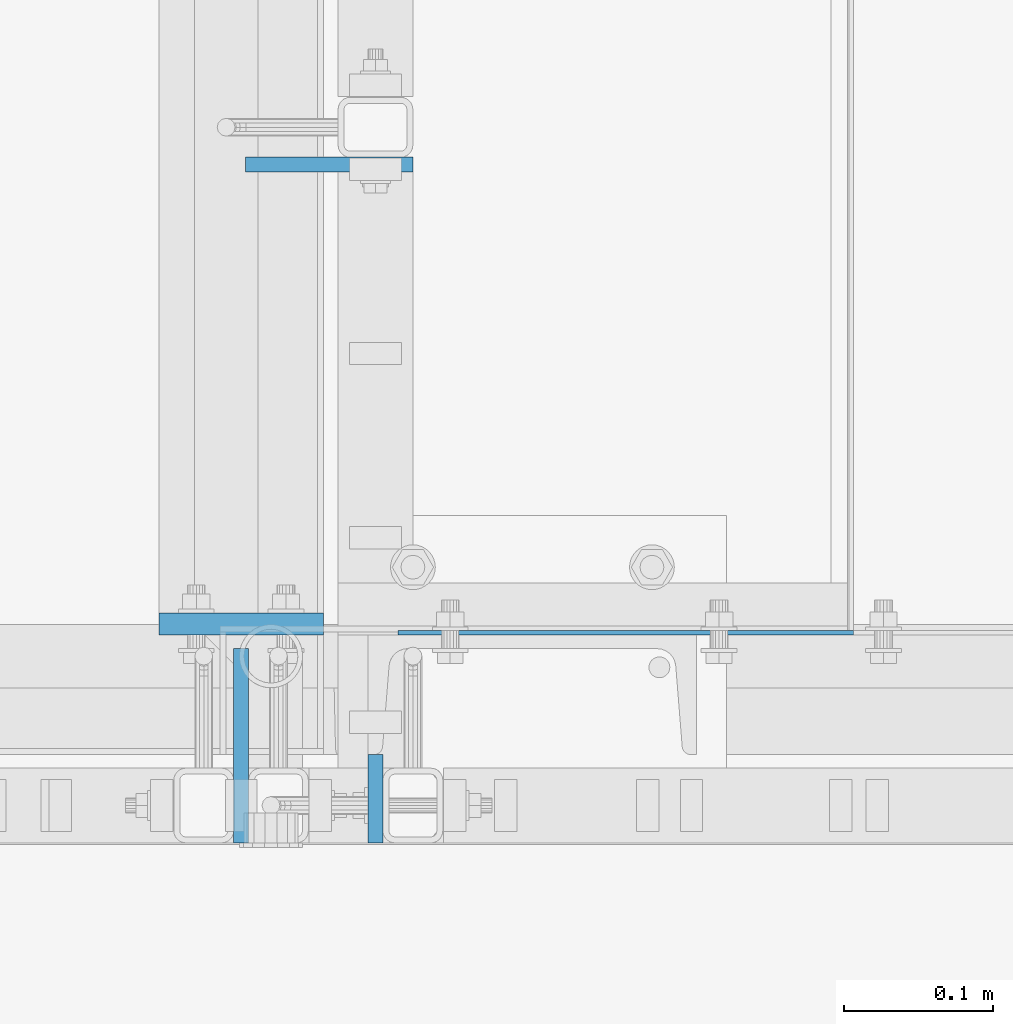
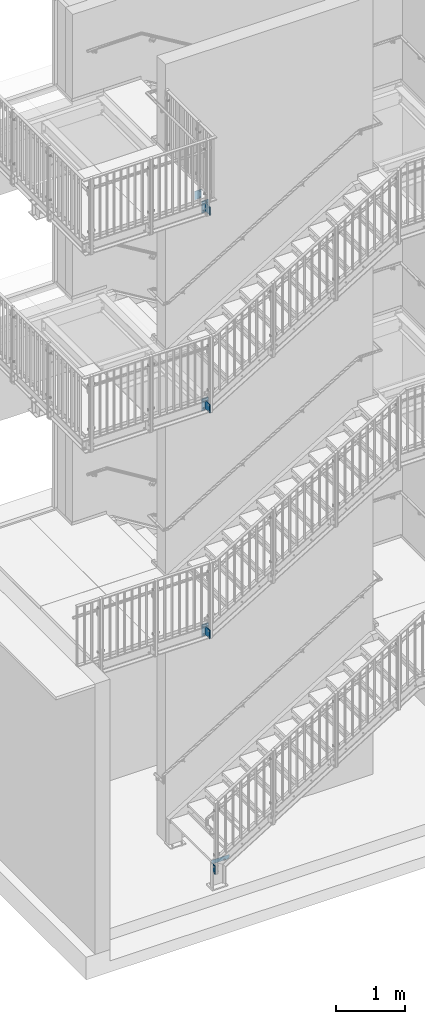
# One storey, part 52 of 410: 9 plates, 36 openings.
"""IFC2X3 building model written with IfcOpenShell, lengths in millimetres."""

from ifc_helpers import new_model, entity, si_unit, converted_unit, point, frame, frame_2d, origin, origin_with_axes, origin_2d_with_axis, place, context, project, spatial, polyline, circle_curve, line_curve, trimmed, segment, composite_curve, circle, outline, extrude, material, layer, layer_set, element, save


model = new_model("IFC2X3")

# Units and contexts
model_context = context("Model", 3, precision=1e-09, world=origin_with_axes())
ifc_project = project(units=[si_unit("LENGTHUNIT", "METRE", prefix="MILLI"), si_unit("AREAUNIT", "SQUARE_METRE"), si_unit("VOLUMEUNIT", "CUBIC_METRE"), converted_unit("PLANEANGLEUNIT", "DEGREE", entity("IfcPlaneAngleMeasure", 0.01745329), si_unit("PLANEANGLEUNIT", "RADIAN"), dimensions=[0, 0, 0, 0, 0, 0, 0])], contexts=[model_context])

# Site, building, storey
site_placement = place(None, origin_with_axes())
site = spatial("IfcSite", under=ifc_project, at=site_placement, Name="mKR Teilneubau & Sanierung BA1 - Ostfildern", CompositionType="ELEMENT")
building_placement = place(site_placement, origin_with_axes())
building = spatial("IfcBuilding", under=site, at=building_placement, Name="Struktur 1", CompositionType="ELEMENT")
storey_placement = place(building_placement, origin_with_axes())
storey = spatial("IfcBuildingStorey", under=building, at=storey_placement, Name="Default Storey", CompositionType="ELEMENT", Elevation=0.0)

# Plate, openings
ifc_material = material(Name="S235JR")
ifc_layer_1 = layer(ifc_material, 3.0)
ifc_layer_set_1 = layer_set([ifc_layer_1], Name="S235JR")
plate_1_placement = place(None, frame((-1705.0, 15522.999999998, -4291.2), z_axis=(0.0, -1.0, 0.0), x_axis=(0.0, 0.0, -1.0)))
plate_1 = element("IfcPlate", 1, at=plate_1_placement, inside=storey, material=ifc_layer_set_1, Name="Grate_Step#3", ObjectType="Grate_Step#3", context=model_context, shape_type="SweptSolid", body=[
    extrude(outline(polyline([(0.0, 0.0), (70.0, 0.0), (70.0, 275.0), (40.0, 305.0), (0.0, 305.0), (0.0, 0.0)])), origin_with_axes(), (0.0, 0.0, 1.0), 3.0),
])
opening_1_placement = place(plate_1_placement, frame((55.0, 215.0, -0.5), z_axis=(0.0, 0.0, 1.0), x_axis=(0.0, 1.0, 0.0)))
element("IfcOpeningElement", 2, at=opening_1_placement, cuts=plate_1, ObjectType="Opening", context=model_context, shape_type="SweptSolid", body=[
    extrude(outline(composite_curve([segment(trimmed(line_curve((-9.5, -7.001), (1.0, 0.0), 19.0), [point((-9.5, -7.001))], [point((9.5, -7.001))], True, "CARTESIAN"), True, "CONTINUOUS"), segment(trimmed(circle_curve(frame_2d((9.5, 0.0), x_axis=(1.0, 0.0)), 7.001), [point((9.5, -7.001))], [point((9.5, 7.001))], True, "CARTESIAN"), True, "CONTINUOUS"), segment(trimmed(line_curve((9.5, 7.001), (-1.0, 0.0), 19.0), [point((9.5, 7.001))], [point((-9.5, 7.001))], True, "CARTESIAN"), True, "CONTINUOUS"), segment(trimmed(circle_curve(frame_2d((-9.5, 0.0), x_axis=(1.0, 0.0)), 7.001), [point((-9.5, 7.001))], [point((-9.5, -7.001))], True, "CARTESIAN"), True, "CONTINUOUS")], self_intersect=False)), origin(), (0.0, 0.0, 1.0), 4.0),
])
opening_2_placement = place(plate_1_placement, frame((55.0, 35.0, -0.5), z_axis=(0.0, 0.0, 1.0), x_axis=(0.0, 1.0, 0.0)))
element("IfcOpeningElement", 3, at=opening_2_placement, cuts=plate_1, ObjectType="Opening", context=model_context, shape_type="SweptSolid", body=[
    extrude(circle(Radius=7.001, at=origin_2d_with_axis()), origin(), (0.0, 0.0, 1.0), 4.0),
])

ifc_layer_2 = layer(ifc_material, 15.0)
ifc_layer_set_2 = layer_set([ifc_layer_2], Name="S235JR")
plate_2_placement = place(None, frame((-1809.9985317, 15534.999999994, 3830.0), z_axis=(0.0, -1.0, 0.0), x_axis=(1.0, 0.0, 0.0)))
plate_2 = element("IfcPlate", 4, at=plate_2_placement, inside=storey, material=ifc_layer_set_2, Name="-", ObjectType="-", context=model_context, shape_type="SweptSolid", body=[
    extrude(outline(polyline([(-55.0, -105.0), (55.0, -105.0), (55.0, 105.0), (-55.0, 105.0), (-55.0, -105.0)])), origin_with_axes(), (0.0, 0.0, 1.0), 15.0),
])
opening_3_placement = place(plate_2_placement, frame((2.9e-08, 1.5e-08, -0.5), z_axis=(0.0, 0.0, 1.0), x_axis=(1.0, 0.0, 0.0)))
element("IfcOpeningElement", 5, at=opening_3_placement, cuts=plate_2, ObjectType="Opening", context=model_context, shape_type="SweptSolid", body=[
    extrude(circle(Radius=7.001, at=frame_2d((30.0, 60.0), x_axis=(1.0, 0.0))), origin(), (0.0, 0.0, 1.0), 16.0),
])
opening_4_placement = place(plate_2_placement, frame((2.9e-08, 1.5e-08, -0.5), z_axis=(0.0, 0.0, 1.0), x_axis=(1.0, 0.0, 0.0)))
element("IfcOpeningElement", 6, at=opening_4_placement, cuts=plate_2, ObjectType="Opening", context=model_context, shape_type="SweptSolid", body=[
    extrude(circle(Radius=7.001, at=frame_2d((-30.0, 60.0), x_axis=(1.0, 0.0))), origin(), (0.0, 0.0, 1.0), 16.0),
])
opening_5_placement = place(plate_2_placement, frame((2.9e-08, 1.5e-08, -0.5), z_axis=(0.0, 0.0, 1.0), x_axis=(1.0, 0.0, 0.0)))
element("IfcOpeningElement", 7, at=opening_5_placement, cuts=plate_2, ObjectType="Opening", context=model_context, shape_type="SweptSolid", body=[
    extrude(circle(Radius=7.001, at=frame_2d((30.0, -60.0), x_axis=(1.0, 0.0))), origin(), (0.0, 0.0, 1.0), 16.0),
])
opening_6_placement = place(plate_2_placement, frame((2.9e-08, 1.5e-08, -0.5), z_axis=(0.0, 0.0, 1.0), x_axis=(1.0, 0.0, 0.0)))
element("IfcOpeningElement", 8, at=opening_6_placement, cuts=plate_2, ObjectType="Opening", context=model_context, shape_type="SweptSolid", body=[
    extrude(circle(Radius=7.001, at=frame_2d((-30.0, -60.0), x_axis=(1.0, 0.0))), origin(), (0.0, 0.0, 1.0), 16.0),
])
opening_7_placement = place(plate_2_placement, frame((14.95, 88.8, 15.5), z_axis=(0.0, 0.0, -1.0), x_axis=(0.0, 1.0, 0.0)))
element("IfcOpeningElement", 9, at=opening_7_placement, cuts=plate_2, ObjectType="Opening", context=model_context, shape_type="SweptSolid", body=[
    extrude(circle(Radius=6.001, at=origin_2d_with_axis()), origin(), (0.0, 0.0, 1.0), 16.0),
])
opening_8_placement = place(plate_2_placement, frame((14.95, -88.8, 15.5), z_axis=(0.0, 0.0, -1.0), x_axis=(0.0, 1.0, 0.0)))
element("IfcOpeningElement", 10, at=opening_8_placement, cuts=plate_2, ObjectType="Opening", context=model_context, shape_type="SweptSolid", body=[
    extrude(circle(Radius=6.001, at=origin_2d_with_axis()), origin(), (0.0, 0.0, 1.0), 16.0),
])
opening_9_placement = place(plate_2_placement, frame((-14.95, -88.8, 15.5), z_axis=(0.0, 0.0, -1.0), x_axis=(0.0, 1.0, 0.0)))
element("IfcOpeningElement", 11, at=opening_9_placement, cuts=plate_2, ObjectType="Opening", context=model_context, shape_type="SweptSolid", body=[
    extrude(circle(Radius=6.001, at=origin_2d_with_axis()), origin(), (0.0, 0.0, 1.0), 16.0),
])
opening_10_placement = place(plate_2_placement, frame((-14.95, 88.8, 15.5), z_axis=(0.0, 0.0, -1.0), x_axis=(0.0, 1.0, 0.0)))
element("IfcOpeningElement", 12, at=opening_10_placement, cuts=plate_2, ObjectType="Opening", context=model_context, shape_type="SweptSolid", body=[
    extrude(circle(Radius=6.001, at=origin_2d_with_axis()), origin(), (0.0, 0.0, 1.0), 16.0),
])

plate_3_placement = place(None, frame((-1809.9985317, 15534.999999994, 7330.0), z_axis=(0.0, -1.0, 0.0), x_axis=(1.0, 0.0, 0.0)))
plate_3 = element("IfcPlate", 13, at=plate_3_placement, inside=storey, material=ifc_layer_set_2, Name="-", ObjectType="-", context=model_context, shape_type="SweptSolid", body=[
    extrude(outline(polyline([(-55.0, -105.0), (55.0, -105.0), (55.0, 105.0), (-55.0, 105.0), (-55.0, -105.0)])), origin_with_axes(), (0.0, 0.0, 1.0), 15.0),
])
opening_11_placement = place(plate_3_placement, frame((2.9e-08, 1.5e-08, -0.5), z_axis=(0.0, 0.0, 1.0), x_axis=(1.0, 0.0, 0.0)))
element("IfcOpeningElement", 14, at=opening_11_placement, cuts=plate_3, ObjectType="Opening", context=model_context, shape_type="SweptSolid", body=[
    extrude(circle(Radius=7.001, at=frame_2d((30.0, 60.0), x_axis=(1.0, 0.0))), origin(), (0.0, 0.0, 1.0), 16.0),
])
opening_12_placement = place(plate_3_placement, frame((2.9e-08, 1.5e-08, -0.5), z_axis=(0.0, 0.0, 1.0), x_axis=(1.0, 0.0, 0.0)))
element("IfcOpeningElement", 15, at=opening_12_placement, cuts=plate_3, ObjectType="Opening", context=model_context, shape_type="SweptSolid", body=[
    extrude(circle(Radius=7.001, at=frame_2d((-30.0, 60.0), x_axis=(1.0, 0.0))), origin(), (0.0, 0.0, 1.0), 16.0),
])
opening_13_placement = place(plate_3_placement, frame((2.9e-08, 1.5e-08, -0.5), z_axis=(0.0, 0.0, 1.0), x_axis=(1.0, 0.0, 0.0)))
element("IfcOpeningElement", 16, at=opening_13_placement, cuts=plate_3, ObjectType="Opening", context=model_context, shape_type="SweptSolid", body=[
    extrude(circle(Radius=7.001, at=frame_2d((30.0, -60.0), x_axis=(1.0, 0.0))), origin(), (0.0, 0.0, 1.0), 16.0),
])
opening_14_placement = place(plate_3_placement, frame((2.9e-08, 1.5e-08, -0.5), z_axis=(0.0, 0.0, 1.0), x_axis=(1.0, 0.0, 0.0)))
element("IfcOpeningElement", 17, at=opening_14_placement, cuts=plate_3, ObjectType="Opening", context=model_context, shape_type="SweptSolid", body=[
    extrude(circle(Radius=7.001, at=frame_2d((-30.0, -60.0), x_axis=(1.0, 0.0))), origin(), (0.0, 0.0, 1.0), 16.0),
])
opening_15_placement = place(plate_3_placement, frame((14.95, 88.8, 15.5), z_axis=(0.0, 0.0, -1.0), x_axis=(0.0, 1.0, 0.0)))
element("IfcOpeningElement", 18, at=opening_15_placement, cuts=plate_3, ObjectType="Opening", context=model_context, shape_type="SweptSolid", body=[
    extrude(circle(Radius=6.001, at=origin_2d_with_axis()), origin(), (0.0, 0.0, 1.0), 16.0),
])
opening_16_placement = place(plate_3_placement, frame((14.95, -88.8, 15.5), z_axis=(0.0, 0.0, -1.0), x_axis=(0.0, 1.0, 0.0)))
element("IfcOpeningElement", 19, at=opening_16_placement, cuts=plate_3, ObjectType="Opening", context=model_context, shape_type="SweptSolid", body=[
    extrude(circle(Radius=6.001, at=origin_2d_with_axis()), origin(), (0.0, 0.0, 1.0), 16.0),
])
opening_17_placement = place(plate_3_placement, frame((-14.95, -88.8, 15.5), z_axis=(0.0, 0.0, -1.0), x_axis=(0.0, 1.0, 0.0)))
element("IfcOpeningElement", 20, at=opening_17_placement, cuts=plate_3, ObjectType="Opening", context=model_context, shape_type="SweptSolid", body=[
    extrude(circle(Radius=6.001, at=origin_2d_with_axis()), origin(), (0.0, 0.0, 1.0), 16.0),
])
opening_18_placement = place(plate_3_placement, frame((-14.95, 88.8, 15.5), z_axis=(0.0, 0.0, -1.0), x_axis=(0.0, 1.0, 0.0)))
element("IfcOpeningElement", 21, at=opening_18_placement, cuts=plate_3, ObjectType="Opening", context=model_context, shape_type="SweptSolid", body=[
    extrude(circle(Radius=6.001, at=origin_2d_with_axis()), origin(), (0.0, 0.0, 1.0), 16.0),
])

plate_4_placement = place(None, frame((-1809.9985317, 15534.999999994, -170.0), z_axis=(0.0, -1.0, 0.0), x_axis=(1.0, 0.0, 0.0)))
plate_4 = element("IfcPlate", 22, at=plate_4_placement, inside=storey, material=ifc_layer_set_2, Name="-", ObjectType="-", context=model_context, shape_type="SweptSolid", body=[
    extrude(outline(polyline([(-55.0, -105.0), (55.0, -105.0), (55.0, 105.0), (-55.0, 105.0), (-55.0, -105.0)])), origin_with_axes(), (0.0, 0.0, 1.0), 15.0),
])
opening_19_placement = place(plate_4_placement, frame((2.9e-08, 1.5e-08, -0.5), z_axis=(0.0, 0.0, 1.0), x_axis=(1.0, 0.0, 0.0)))
element("IfcOpeningElement", 23, at=opening_19_placement, cuts=plate_4, ObjectType="Opening", context=model_context, shape_type="SweptSolid", body=[
    extrude(circle(Radius=7.001, at=frame_2d((30.0, 60.0), x_axis=(1.0, 0.0))), origin(), (0.0, 0.0, 1.0), 16.0),
])
opening_20_placement = place(plate_4_placement, frame((2.9e-08, 1.5e-08, -0.5), z_axis=(0.0, 0.0, 1.0), x_axis=(1.0, 0.0, 0.0)))
element("IfcOpeningElement", 24, at=opening_20_placement, cuts=plate_4, ObjectType="Opening", context=model_context, shape_type="SweptSolid", body=[
    extrude(circle(Radius=7.001, at=frame_2d((-30.0, 60.0), x_axis=(1.0, 0.0))), origin(), (0.0, 0.0, 1.0), 16.0),
])
opening_21_placement = place(plate_4_placement, frame((2.9e-08, 1.5e-08, -0.5), z_axis=(0.0, 0.0, 1.0), x_axis=(1.0, 0.0, 0.0)))
element("IfcOpeningElement", 25, at=opening_21_placement, cuts=plate_4, ObjectType="Opening", context=model_context, shape_type="SweptSolid", body=[
    extrude(circle(Radius=7.001, at=frame_2d((30.0, -60.0), x_axis=(1.0, 0.0))), origin(), (0.0, 0.0, 1.0), 16.0),
])
opening_22_placement = place(plate_4_placement, frame((2.9e-08, 1.5e-08, -0.5), z_axis=(0.0, 0.0, 1.0), x_axis=(1.0, 0.0, 0.0)))
element("IfcOpeningElement", 26, at=opening_22_placement, cuts=plate_4, ObjectType="Opening", context=model_context, shape_type="SweptSolid", body=[
    extrude(circle(Radius=7.001, at=frame_2d((-30.0, -60.0), x_axis=(1.0, 0.0))), origin(), (0.0, 0.0, 1.0), 16.0),
])
opening_23_placement = place(plate_4_placement, frame((14.95, 88.8, 15.5), z_axis=(0.0, 0.0, -1.0), x_axis=(0.0, 1.0, 0.0)))
element("IfcOpeningElement", 27, at=opening_23_placement, cuts=plate_4, ObjectType="Opening", context=model_context, shape_type="SweptSolid", body=[
    extrude(circle(Radius=6.001, at=origin_2d_with_axis()), origin(), (0.0, 0.0, 1.0), 16.0),
])
opening_24_placement = place(plate_4_placement, frame((14.95, -88.8, 15.5), z_axis=(0.0, 0.0, -1.0), x_axis=(0.0, 1.0, 0.0)))
element("IfcOpeningElement", 28, at=opening_24_placement, cuts=plate_4, ObjectType="Opening", context=model_context, shape_type="SweptSolid", body=[
    extrude(circle(Radius=6.001, at=origin_2d_with_axis()), origin(), (0.0, 0.0, 1.0), 16.0),
])
opening_25_placement = place(plate_4_placement, frame((-14.95, -88.8, 15.5), z_axis=(0.0, 0.0, -1.0), x_axis=(0.0, 1.0, 0.0)))
element("IfcOpeningElement", 29, at=opening_25_placement, cuts=plate_4, ObjectType="Opening", context=model_context, shape_type="SweptSolid", body=[
    extrude(circle(Radius=6.001, at=origin_2d_with_axis()), origin(), (0.0, 0.0, 1.0), 16.0),
])
opening_26_placement = place(plate_4_placement, frame((-14.95, 88.8, 15.5), z_axis=(0.0, 0.0, -1.0), x_axis=(0.0, 1.0, 0.0)))
element("IfcOpeningElement", 30, at=opening_26_placement, cuts=plate_4, ObjectType="Opening", context=model_context, shape_type="SweptSolid", body=[
    extrude(circle(Radius=6.001, at=origin_2d_with_axis()), origin(), (0.0, 0.0, 1.0), 16.0),
])

ifc_layer_3 = layer(ifc_material, 10.0)
ifc_layer_set_3 = layer_set([ifc_layer_3], Name="S235JR")
plate_5_placement = place(None, frame((-1804.99853167, 15445.999999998, 3830.0), z_axis=(-1.0, 0.0, 0.0), x_axis=(0.0, -1.0, 0.0)))
plate_5 = element("IfcPlate", 31, at=plate_5_placement, inside=storey, material=ifc_layer_set_3, Name="-", ObjectType="-", context=model_context, shape_type="SweptSolid", body=[
    extrude(outline(polyline([(-65.0, -75.0), (65.0, -75.0), (65.0, 75.0), (-65.0, 75.0), (-65.0, -75.0)])), origin_with_axes(), (0.0, 0.0, 1.0), 10.0),
])
opening_27_placement = place(plate_5_placement, frame((40.0, 0.0, -0.5), z_axis=(0.0, 0.0, 1.0), x_axis=(1.0, 0.0, 0.0)))
element("IfcOpeningElement", 32, at=opening_27_placement, cuts=plate_5, ObjectType="Opening", context=model_context, shape_type="SweptSolid", body=[
    extrude(circle(Radius=7.001, at=frame_2d((0.0, 50.0), x_axis=(1.0, 0.0))), origin(), (0.0, 0.0, 1.0), 11.0),
])
opening_28_placement = place(plate_5_placement, frame((40.0, 0.0, -0.5), z_axis=(0.0, 0.0, 1.0), x_axis=(1.0, 0.0, 0.0)))
element("IfcOpeningElement", 33, at=opening_28_placement, cuts=plate_5, ObjectType="Opening", context=model_context, shape_type="SweptSolid", body=[
    extrude(circle(Radius=7.001, at=frame_2d((0.0, -50.0), x_axis=(1.0, 0.0))), origin(), (0.0, 0.0, 1.0), 11.0),
])

plate_6_placement = place(None, frame((-1804.99853167, 15445.999999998, -170.0), z_axis=(-1.0, 0.0, 0.0), x_axis=(0.0, -1.0, 0.0)))
plate_6 = element("IfcPlate", 34, at=plate_6_placement, inside=storey, material=ifc_layer_set_3, Name="-", ObjectType="-", context=model_context, shape_type="SweptSolid", body=[
    extrude(outline(polyline([(-65.0, -75.0), (65.0, -75.0), (65.0, 75.0), (-65.0, 75.0), (-65.0, -75.0)])), origin_with_axes(), (0.0, 0.0, 1.0), 10.0),
])
opening_29_placement = place(plate_6_placement, frame((40.0, 0.0, -0.5), z_axis=(0.0, 0.0, 1.0), x_axis=(1.0, 0.0, 0.0)))
element("IfcOpeningElement", 35, at=opening_29_placement, cuts=plate_6, ObjectType="Opening", context=model_context, shape_type="SweptSolid", body=[
    extrude(circle(Radius=7.001, at=frame_2d((0.0, 50.0), x_axis=(1.0, 0.0))), origin(), (0.0, 0.0, 1.0), 11.0),
])
opening_30_placement = place(plate_6_placement, frame((40.0, 0.0, -0.5), z_axis=(0.0, 0.0, 1.0), x_axis=(1.0, 0.0, 0.0)))
element("IfcOpeningElement", 36, at=opening_30_placement, cuts=plate_6, ObjectType="Opening", context=model_context, shape_type="SweptSolid", body=[
    extrude(circle(Radius=7.001, at=frame_2d((0.0, -50.0), x_axis=(1.0, 0.0))), origin(), (0.0, 0.0, 1.0), 11.0),
])

plate_7_placement = place(None, frame((-1814.998531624, 15445.999999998, 7330.0), z_axis=(-1.0, 0.0, 0.0), x_axis=(0.0, -1.0, 0.0)))
plate_7 = element("IfcPlate", 37, at=plate_7_placement, inside=storey, material=ifc_layer_set_3, Name="-", ObjectType="-", context=model_context, shape_type="SweptSolid", body=[
    extrude(outline(polyline([(-65.0, -75.0), (65.0, -75.0), (65.0, 75.0), (-65.0, 75.0), (-65.0, -75.0)])), origin_with_axes(), (0.0, 0.0, -1.0), 10.0),
])
opening_31_placement = place(plate_7_placement, frame((32.999, 50.0, 0.5), z_axis=(0.0, 0.0, 1.0), x_axis=(1.0, 0.0, 0.0)))
element("IfcOpeningElement", 38, at=opening_31_placement, cuts=plate_7, ObjectType="Opening", context=model_context, shape_type="SweptSolid", body=[
    extrude(circle(Radius=7.001, at=frame_2d((7.001, 0.0), x_axis=(1.0, 0.0))), origin(), (0.0, 0.0, -1.0), 11.0),
])
opening_32_placement = place(plate_7_placement, frame((32.999, -50.0, 0.5), z_axis=(0.0, 0.0, 1.0), x_axis=(1.0, 0.0, 0.0)))
element("IfcOpeningElement", 39, at=opening_32_placement, cuts=plate_7, ObjectType="Opening", context=model_context, shape_type="SweptSolid", body=[
    extrude(circle(Radius=7.001, at=frame_2d((7.001, 0.0), x_axis=(1.0, 0.0))), origin(), (0.0, 0.0, -1.0), 11.0),
])

plate_8_placement = place(None, frame((-1714.998531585, 15410.499999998, -4378.532179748), z_axis=(-1.0, 0.0, 0.0), x_axis=(0.0, -1.0, 0.0)))
plate_8 = element("IfcPlate", 40, at=plate_8_placement, inside=storey, material=ifc_layer_set_3, Name="-", ObjectType="-", context=model_context, shape_type="SweptSolid", body=[
    extrude(outline(polyline([(-29.5, -75.0), (29.5, -75.0), (29.5, 75.0), (-29.5, 75.0), (-29.5, -75.0)])), origin_with_axes(), (0.0, 0.0, 1.0), 10.0),
])
opening_33_placement = place(plate_8_placement, frame((4.5, 0.0, -0.5), z_axis=(0.0, 0.0, 1.0), x_axis=(1.0, 0.0, 0.0)))
element("IfcOpeningElement", 41, at=opening_33_placement, cuts=plate_8, ObjectType="Opening", context=model_context, shape_type="SweptSolid", body=[
    extrude(circle(Radius=7.001, at=frame_2d((0.0, 50.0), x_axis=(1.0, 0.0))), origin(), (0.0, 0.0, 1.0), 11.0),
])
opening_34_placement = place(plate_8_placement, frame((4.5, 0.0, -0.5), z_axis=(0.0, 0.0, 1.0), x_axis=(1.0, 0.0, 0.0)))
element("IfcOpeningElement", 42, at=opening_34_placement, cuts=plate_8, ObjectType="Opening", context=model_context, shape_type="SweptSolid", body=[
    extrude(circle(Radius=7.001, at=frame_2d((0.0, -50.0), x_axis=(1.0, 0.0))), origin(), (0.0, 0.0, 1.0), 11.0),
])

plate_9_placement = place(None, frame((-1751.0485317, 15840.0, 7330.0), z_axis=(0.0, -1.0, 0.0), x_axis=(1.0, 0.0, 0.0)))
plate_9 = element("IfcPlate", 43, at=plate_9_placement, inside=storey, material=ifc_layer_set_3, Name="-", ObjectType="-", context=model_context, shape_type="SweptSolid", body=[
    extrude(outline(polyline([(-56.0, -75.0), (56.0, -75.0), (56.0, 75.0), (-56.0, 75.0), (-56.0, -75.0)])), origin_with_axes(), (0.0, 0.0, 1.0), 10.0),
])
opening_35_placement = place(plate_9_placement, frame((31.0, 0.0, -0.5), z_axis=(0.0, 0.0, 1.0), x_axis=(1.0, 0.0, 0.0)))
element("IfcOpeningElement", 44, at=opening_35_placement, cuts=plate_9, ObjectType="Opening", context=model_context, shape_type="SweptSolid", body=[
    extrude(circle(Radius=7.001, at=frame_2d((0.0, 50.0), x_axis=(1.0, 0.0))), origin(), (0.0, 0.0, 1.0), 11.0),
])
opening_36_placement = place(plate_9_placement, frame((31.0, 0.0, -0.5), z_axis=(0.0, 0.0, 1.0), x_axis=(1.0, 0.0, 0.0)))
element("IfcOpeningElement", 45, at=opening_36_placement, cuts=plate_9, ObjectType="Opening", context=model_context, shape_type="SweptSolid", body=[
    extrude(circle(Radius=7.001, at=frame_2d((0.0, -50.0), x_axis=(1.0, 0.0))), origin(), (0.0, 0.0, 1.0), 11.0),
])

save(model, "model.ifc")
